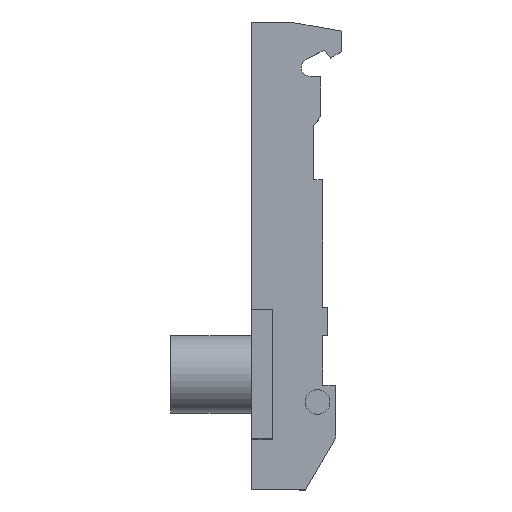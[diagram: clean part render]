
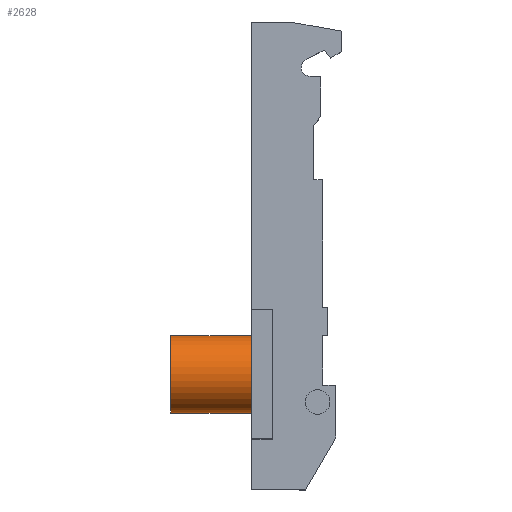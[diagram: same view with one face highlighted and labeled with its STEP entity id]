
A CAD part, top view. The second image highlights one B-rep face of the part: STEP entity #2628.
In plain terms, the highlighted cylindrical face has radius 5.35 mm (diameter 10.7 mm), a partial arc.
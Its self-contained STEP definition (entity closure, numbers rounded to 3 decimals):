
#134 = DIRECTION ( 'NONE',  ( -1., 0., 0. ) ) ;
#136 = CARTESIAN_POINT ( 'NONE',  ( -11.2, 0., 16. ) ) ;
#141 = DIRECTION ( 'NONE',  ( 0., 1., 0. ) ) ;
#200 = DIRECTION ( 'NONE',  ( 1., 0., 0. ) ) ;
#201 = CARTESIAN_POINT ( 'NONE',  ( -11.2, -5.35, 16. ) ) ;
#236 = CARTESIAN_POINT ( 'NONE',  ( -11.2, 5.35, 16. ) ) ;
#238 = DIRECTION ( 'NONE',  ( 1., 0., 0. ) ) ;
#625 = CARTESIAN_POINT ( 'NONE',  ( 0., 0., 16. ) ) ;
#631 = DIRECTION ( 'NONE',  ( 0., 1., 0. ) ) ;
#633 = DIRECTION ( 'NONE',  ( -1., 0., 0. ) ) ;
#865 = VERTEX_POINT ( 'NONE', #971 ) ;
#866 = VERTEX_POINT ( 'NONE', #972 ) ;
#873 = VERTEX_POINT ( 'NONE', #979 ) ;
#874 = VERTEX_POINT ( 'NONE', #980 ) ;
#971 = CARTESIAN_POINT ( 'NONE',  ( 0., -5.35, 16. ) ) ;
#972 = CARTESIAN_POINT ( 'NONE',  ( -11.2, 5.35, 16. ) ) ;
#979 = CARTESIAN_POINT ( 'NONE',  ( 0., 5.35, 16. ) ) ;
#980 = CARTESIAN_POINT ( 'NONE',  ( -11.2, -5.35, 16. ) ) ;
#1337 = DIRECTION ( 'NONE',  ( 1., 0., 0. ) ) ;
#1342 = DIRECTION ( 'NONE',  ( 0., -1., 0. ) ) ;
#1348 = CARTESIAN_POINT ( 'NONE',  ( -11.2, 0., 16. ) ) ;
#1408 = CIRCLE ( 'NONE', #1782, 5.35 ) ;
#1576 = LINE ( 'NONE', #201, #1632 ) ;
#1632 = VECTOR ( 'NONE', #200, 1000. ) ;
#1662 = LINE ( 'NONE', #236, #1663 ) ;
#1663 = VECTOR ( 'NONE', #238, 1000. ) ;
#1782 = AXIS2_PLACEMENT_3D ( 'NONE', #625, #633, #631 ) ;
#1796 = AXIS2_PLACEMENT_3D ( 'NONE', #136, #134, #141 ) ;
#1834 = AXIS2_PLACEMENT_3D ( 'NONE', #1348, #1337, #1342 ) ;
#2473 = ORIENTED_EDGE ( 'NONE', *, *, #3074, .F. ) ;
#2474 = ORIENTED_EDGE ( 'NONE', *, *, #2852, .F. ) ;
#2475 = ORIENTED_EDGE ( 'NONE', *, *, #3060, .T. ) ;
#2476 = ORIENTED_EDGE ( 'NONE', *, *, #2891, .T. ) ;
#2496 = EDGE_LOOP ( 'NONE', ( #2473, #2474, #2475, #2476 ) ) ;
#2628 = ADVANCED_FACE ( 'NONE', ( #2766 ), #2767, .T. ) ;
#2766 = FACE_OUTER_BOUND ( 'NONE', #2496, .T. ) ;
#2767 = CYLINDRICAL_SURFACE ( 'NONE', #1834, 5.35 ) ;
#2787 = CIRCLE ( 'NONE', #1796, 5.35 ) ;
#2852 = EDGE_CURVE ( 'NONE', #874, #866, #2787, .T. ) ;
#2891 = EDGE_CURVE ( 'NONE', #865, #873, #1408, .T. ) ;
#3060 = EDGE_CURVE ( 'NONE', #874, #865, #1576, .T. ) ;
#3074 = EDGE_CURVE ( 'NONE', #866, #873, #1662, .T. ) ;
